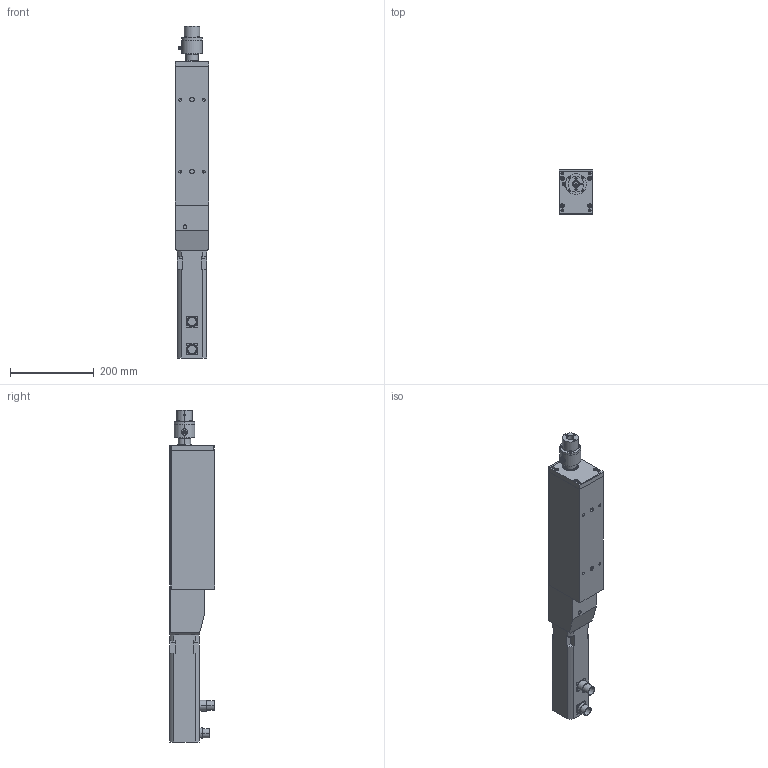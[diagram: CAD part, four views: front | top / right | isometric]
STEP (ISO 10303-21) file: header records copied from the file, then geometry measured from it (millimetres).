
FILE_DESCRIPTION (( 'STEP AP203' ), '1' );
FILE_NAME ('KM PR5ID030-020-025H.STEP', '2019-08-02T06:54:07', ( '' ), ( '' ), 'SwSTEP 2.0', 'SolidWorks 2016', '' );
FILE_SCHEMA (( 'CONFIG_CONTROL_DESIGN' ));
Length unit declared in the file: millimetre
Products named in the file (1): KM PR5ID030-020-025H
Bounding box: 80 x 108 x 794.3 mm (x, y, z)
Volume: 3748455.6 mm3; surface area: 538767.7 mm2
Topology: 31 solids, 31 shells, 1147 faces, 2670 edges, 1573 vertices
Faces by surface type: plane 448, cylinder 423, cone 218, torus 58
Entity records: 32595 total; most frequent: CARTESIAN_POINT 6215, DIRECTION 5894, ORIENTED_EDGE 5040, EDGE_CURVE 2520, AXIS2_PLACEMENT_3D 2278, VERTEX_POINT 1573, EDGE_LOOP 1395, VECTOR 1338
